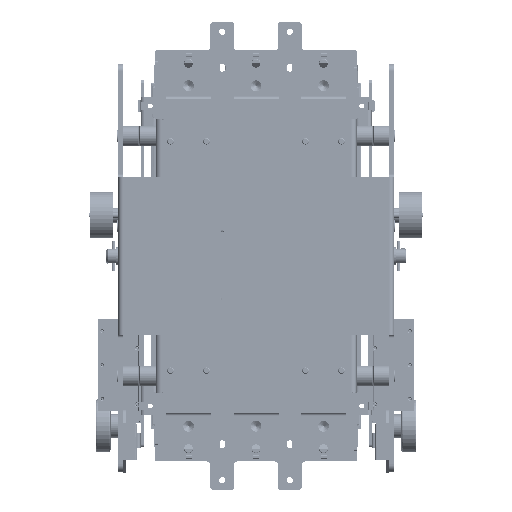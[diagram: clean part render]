
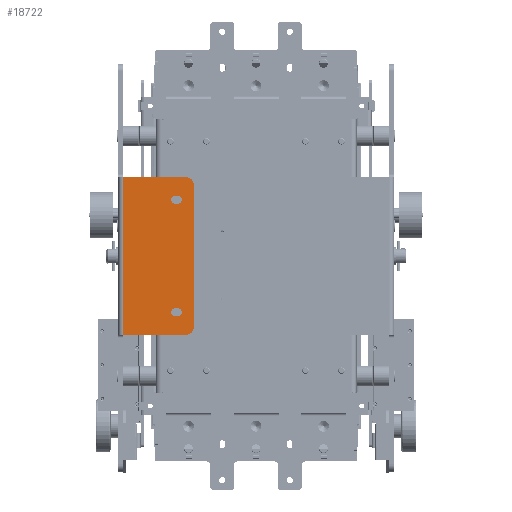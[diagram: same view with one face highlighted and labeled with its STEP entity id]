
A CAD part, front view. The second image highlights one B-rep face of the part: STEP entity #18722.
In plain terms, the highlighted planar face has unit normal (0, -1, 0).
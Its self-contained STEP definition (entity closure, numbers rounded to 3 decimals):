
#1967 = VECTOR ( 'NONE', #165249, 1000. ) ;
#2621 = ORIENTED_EDGE ( 'NONE', *, *, #298896, .F. ) ;
#8626 = EDGE_CURVE ( 'NONE', #89535, #97210, #16005, .T. ) ;
#10049 = VERTEX_POINT ( 'NONE', #361325 ) ;
#10353 = CARTESIAN_POINT ( 'NONE',  ( -37.5, 0., 35.4 ) ) ;
#16005 = CIRCLE ( 'NONE', #261064, 2.6 ) ;
#18722 = ADVANCED_FACE ( 'NONE', ( #292827, #160986, #197392 ), #159621, .F. ) ;
#25601 = CARTESIAN_POINT ( 'NONE',  ( -37.5, 0., 38. ) ) ;
#26360 = CARTESIAN_POINT ( 'NONE',  ( -52.5, 0., 3. ) ) ;
#26962 = DIRECTION ( 'NONE',  ( 0., -1., 0. ) ) ;
#27022 = DIRECTION ( 'NONE',  ( 0., -1., 0. ) ) ;
#27164 = AXIS2_PLACEMENT_3D ( 'NONE', #183309, #178337, #324386 ) ;
#30140 = DIRECTION ( 'NONE',  ( 1., 0., 0. ) ) ;
#32010 = ORIENTED_EDGE ( 'NONE', *, *, #8626, .F. ) ;
#40336 = EDGE_LOOP ( 'NONE', ( #181578, #100347, #369578, #94957, #165919, #214775 ) ) ;
#50448 = VECTOR ( 'NONE', #272120, 1000. ) ;
#50818 = EDGE_CURVE ( 'NONE', #373469, #216980, #84026, .T. ) ;
#50972 = DIRECTION ( 'NONE',  ( 0., 0., 1. ) ) ;
#52494 = CARTESIAN_POINT ( 'NONE',  ( 37.5, 0., 38. ) ) ;
#55294 = ORIENTED_EDGE ( 'NONE', *, *, #318376, .F. ) ;
#58784 = CARTESIAN_POINT ( 'NONE',  ( -47.5, 0., 50.5 ) ) ;
#59767 = EDGE_CURVE ( 'NONE', #144991, #365080, #279787, .T. ) ;
#61707 = EDGE_LOOP ( 'NONE', ( #241385, #167893, #69146, #2621, #211104 ) ) ;
#63648 = AXIS2_PLACEMENT_3D ( 'NONE', #187568, #216764, #306812 ) ;
#67020 = DIRECTION ( 'NONE',  ( 0., -1., 0. ) ) ;
#69146 = ORIENTED_EDGE ( 'NONE', *, *, #59767, .F. ) ;
#75659 = DIRECTION ( 'NONE',  ( 0., 0., -1. ) ) ;
#77223 = CARTESIAN_POINT ( 'NONE',  ( 37.5, 0., 35.4 ) ) ;
#77672 = DIRECTION ( 'NONE',  ( 0., 0., 1. ) ) ;
#78430 = CARTESIAN_POINT ( 'NONE',  ( 40.1, 0., 38. ) ) ;
#80160 = EDGE_CURVE ( 'NONE', #365080, #373469, #94204, .T. ) ;
#84026 = LINE ( 'NONE', #136056, #1967 ) ;
#87407 = CARTESIAN_POINT ( 'NONE',  ( 47.5, 0., 50.5 ) ) ;
#88836 = CIRCLE ( 'NONE', #195683, 2.6 ) ;
#89535 = VERTEX_POINT ( 'NONE', #77223 ) ;
#90010 = EDGE_CURVE ( 'NONE', #117595, #127480, #93804, .T. ) ;
#93728 = DIRECTION ( 'NONE',  ( 0., 0., 1. ) ) ;
#93804 = CIRCLE ( 'NONE', #333422, 5. ) ;
#93827 = EDGE_CURVE ( 'NONE', #154205, #342393, #147227, .T. ) ;
#94204 = CIRCLE ( 'NONE', #27164, 2.6 ) ;
#94957 = ORIENTED_EDGE ( 'NONE', *, *, #292158, .T. ) ;
#97210 = VERTEX_POINT ( 'NONE', #78430 ) ;
#100347 = ORIENTED_EDGE ( 'NONE', *, *, #324864, .T. ) ;
#102044 = VECTOR ( 'NONE', #75659, 1000. ) ;
#103100 = DIRECTION ( 'NONE',  ( -1., 0., 0. ) ) ;
#109235 = EDGE_CURVE ( 'NONE', #216980, #251505, #179359, .T. ) ;
#111823 = LINE ( 'NONE', #26360, #334553 ) ;
#117595 = VERTEX_POINT ( 'NONE', #58784 ) ;
#122046 = AXIS2_PLACEMENT_3D ( 'NONE', #317665, #139888, #50972 ) ;
#126637 = DIRECTION ( 'NONE',  ( 0., 0., -1. ) ) ;
#127480 = VERTEX_POINT ( 'NONE', #333068 ) ;
#133875 = EDGE_CURVE ( 'NONE', #208143, #117595, #363608, .T. ) ;
#135391 = CARTESIAN_POINT ( 'NONE',  ( -52.5, 0., 3. ) ) ;
#136056 = CARTESIAN_POINT ( 'NONE',  ( -40.1, 0., 40. ) ) ;
#136608 = DIRECTION ( 'NONE',  ( 0., 0., -1. ) ) ;
#139888 = DIRECTION ( 'NONE',  ( 0., -1., 0. ) ) ;
#140782 = CARTESIAN_POINT ( 'NONE',  ( 34.9, 0., 38. ) ) ;
#144903 = CARTESIAN_POINT ( 'NONE',  ( 37.5, 0., 38. ) ) ;
#144991 = VERTEX_POINT ( 'NONE', #184505 ) ;
#147227 = LINE ( 'NONE', #279989, #102044 ) ;
#154197 = CARTESIAN_POINT ( 'NONE',  ( 34.9, 0., 40. ) ) ;
#154205 = VERTEX_POINT ( 'NONE', #270180 ) ;
#159621 = PLANE ( 'NONE',  #63648 ) ;
#160986 = FACE_BOUND ( 'NONE', #61707, .T. ) ;
#165249 = DIRECTION ( 'NONE',  ( 0., 0., -1. ) ) ;
#165919 = ORIENTED_EDGE ( 'NONE', *, *, #133875, .T. ) ;
#167477 = CARTESIAN_POINT ( 'NONE',  ( -40.1, 0., 40. ) ) ;
#167893 = ORIENTED_EDGE ( 'NONE', *, *, #80160, .F. ) ;
#168219 = CIRCLE ( 'NONE', #328675, 2.6 ) ;
#178337 = DIRECTION ( 'NONE',  ( 0., -1., 0. ) ) ;
#179359 = CIRCLE ( 'NONE', #284934, 2.6 ) ;
#181578 = ORIENTED_EDGE ( 'NONE', *, *, #221624, .T. ) ;
#181671 = LINE ( 'NONE', #338080, #245398 ) ;
#183309 = CARTESIAN_POINT ( 'NONE',  ( -37.5, 0., 40. ) ) ;
#184505 = CARTESIAN_POINT ( 'NONE',  ( -34.9, 0., 38. ) ) ;
#187568 = CARTESIAN_POINT ( 'NONE',  ( -52.5, 0., 3. ) ) ;
#190639 = EDGE_LOOP ( 'NONE', ( #257227, #32010, #196595, #246793, #55294 ) ) ;
#195683 = AXIS2_PLACEMENT_3D ( 'NONE', #25601, #316532, #200984 ) ;
#196595 = ORIENTED_EDGE ( 'NONE', *, *, #366465, .F. ) ;
#197392 = FACE_OUTER_BOUND ( 'NONE', #40336, .T. ) ;
#200984 = DIRECTION ( 'NONE',  ( 0., 0., -1. ) ) ;
#201166 = DIRECTION ( 'NONE',  ( 0., 0., 1. ) ) ;
#203948 = VERTEX_POINT ( 'NONE', #365106 ) ;
#205849 = DIRECTION ( 'NONE',  ( 0., -1., 0. ) ) ;
#208143 = VERTEX_POINT ( 'NONE', #87407 ) ;
#210010 = CARTESIAN_POINT ( 'NONE',  ( -34.9, 0., 40. ) ) ;
#211104 = ORIENTED_EDGE ( 'NONE', *, *, #109235, .F. ) ;
#214775 = ORIENTED_EDGE ( 'NONE', *, *, #90010, .T. ) ;
#216764 = DIRECTION ( 'NONE',  ( 0., 1., 0. ) ) ;
#216980 = VERTEX_POINT ( 'NONE', #243437 ) ;
#217259 = CARTESIAN_POINT ( 'NONE',  ( 52.5, 0., 3. ) ) ;
#221624 = EDGE_CURVE ( 'NONE', #127480, #309835, #366249, .T. ) ;
#223143 = CIRCLE ( 'NONE', #292051, 2.6 ) ;
#226515 = DIRECTION ( 'NONE',  ( 0., 0., 1. ) ) ;
#232464 = DIRECTION ( 'NONE',  ( 0., 0., 1. ) ) ;
#241385 = ORIENTED_EDGE ( 'NONE', *, *, #50818, .F. ) ;
#242711 = DIRECTION ( 'NONE',  ( 0., 0., 1. ) ) ;
#243437 = CARTESIAN_POINT ( 'NONE',  ( -40.1, 0., 38. ) ) ;
#245398 = VECTOR ( 'NONE', #77672, 1000. ) ;
#246793 = ORIENTED_EDGE ( 'NONE', *, *, #372028, .F. ) ;
#251505 = VERTEX_POINT ( 'NONE', #10353 ) ;
#257227 = ORIENTED_EDGE ( 'NONE', *, *, #367580, .F. ) ;
#258800 = VECTOR ( 'NONE', #103100, 1000. ) ;
#259448 = CARTESIAN_POINT ( 'NONE',  ( -47.5, 0., 45.5 ) ) ;
#261064 = AXIS2_PLACEMENT_3D ( 'NONE', #144903, #205849, #232464 ) ;
#270180 = CARTESIAN_POINT ( 'NONE',  ( 52.5, 0., 45.5 ) ) ;
#272120 = DIRECTION ( 'NONE',  ( 0., 0., -1. ) ) ;
#279787 = LINE ( 'NONE', #364615, #311619 ) ;
#279989 = CARTESIAN_POINT ( 'NONE',  ( 52.5, 0., 3. ) ) ;
#284934 = AXIS2_PLACEMENT_3D ( 'NONE', #327343, #299277, #126637 ) ;
#292051 = AXIS2_PLACEMENT_3D ( 'NONE', #52494, #26962, #226515 ) ;
#292158 = EDGE_CURVE ( 'NONE', #154205, #208143, #373343, .T. ) ;
#292827 = FACE_BOUND ( 'NONE', #190639, .T. ) ;
#298896 = EDGE_CURVE ( 'NONE', #251505, #144991, #88836, .T. ) ;
#299277 = DIRECTION ( 'NONE',  ( 0., -1., 0. ) ) ;
#306812 = DIRECTION ( 'NONE',  ( 0., 0., 1. ) ) ;
#309591 = LINE ( 'NONE', #154197, #50448 ) ;
#309835 = VERTEX_POINT ( 'NONE', #340685 ) ;
#311619 = VECTOR ( 'NONE', #242711, 1000. ) ;
#316532 = DIRECTION ( 'NONE',  ( 0., -1., 0. ) ) ;
#317665 = CARTESIAN_POINT ( 'NONE',  ( 47.5, 0., 45.5 ) ) ;
#318376 = EDGE_CURVE ( 'NONE', #203948, #10049, #168219, .T. ) ;
#324386 = DIRECTION ( 'NONE',  ( 0., 0., -1. ) ) ;
#324864 = EDGE_CURVE ( 'NONE', #309835, #342393, #111823, .T. ) ;
#327343 = CARTESIAN_POINT ( 'NONE',  ( -37.5, 0., 38. ) ) ;
#328616 = CARTESIAN_POINT ( 'NONE',  ( 37.5, 0., 40. ) ) ;
#328675 = AXIS2_PLACEMENT_3D ( 'NONE', #328616, #67020, #93728 ) ;
#333068 = CARTESIAN_POINT ( 'NONE',  ( -52.5, 0., 45.5 ) ) ;
#333422 = AXIS2_PLACEMENT_3D ( 'NONE', #259448, #27022, #201166 ) ;
#334296 = CARTESIAN_POINT ( 'NONE',  ( 52.5, 0., 50.5 ) ) ;
#334553 = VECTOR ( 'NONE', #30140, 1000. ) ;
#338080 = CARTESIAN_POINT ( 'NONE',  ( 40.1, 0., 40. ) ) ;
#340685 = CARTESIAN_POINT ( 'NONE',  ( -52.5, 0., 3. ) ) ;
#342393 = VERTEX_POINT ( 'NONE', #217259 ) ;
#348073 = VECTOR ( 'NONE', #136608, 1000. ) ;
#361325 = CARTESIAN_POINT ( 'NONE',  ( 34.9, 0., 40. ) ) ;
#363608 = LINE ( 'NONE', #334296, #258800 ) ;
#364615 = CARTESIAN_POINT ( 'NONE',  ( -34.9, 0., 40. ) ) ;
#365080 = VERTEX_POINT ( 'NONE', #210010 ) ;
#365106 = CARTESIAN_POINT ( 'NONE',  ( 40.1, 0., 40. ) ) ;
#366249 = LINE ( 'NONE', #135391, #348073 ) ;
#366465 = EDGE_CURVE ( 'NONE', #368134, #89535, #223143, .T. ) ;
#367580 = EDGE_CURVE ( 'NONE', #97210, #203948, #181671, .T. ) ;
#368134 = VERTEX_POINT ( 'NONE', #140782 ) ;
#369578 = ORIENTED_EDGE ( 'NONE', *, *, #93827, .F. ) ;
#372028 = EDGE_CURVE ( 'NONE', #10049, #368134, #309591, .T. ) ;
#373343 = CIRCLE ( 'NONE', #122046, 5. ) ;
#373469 = VERTEX_POINT ( 'NONE', #167477 ) ;
